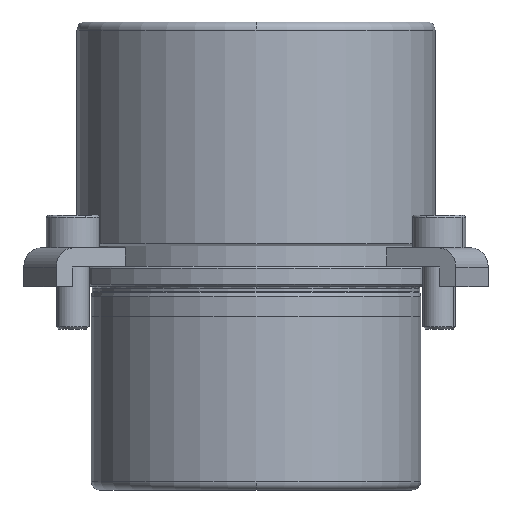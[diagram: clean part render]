
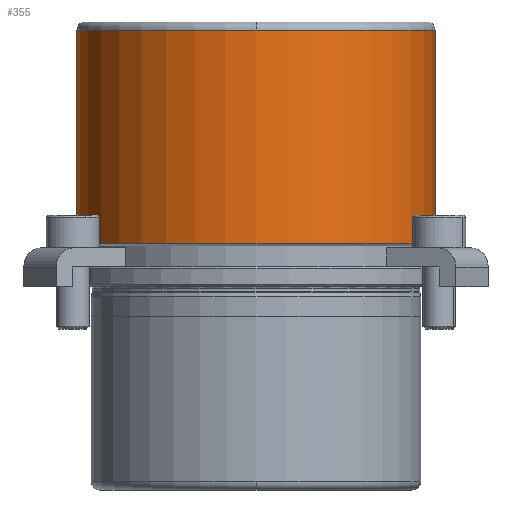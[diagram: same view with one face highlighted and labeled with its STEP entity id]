
A CAD part, front view. The second image highlights one B-rep face of the part: STEP entity #355.
In plain terms, the highlighted cylindrical face has radius 44 mm (diameter 88 mm), a partial arc.
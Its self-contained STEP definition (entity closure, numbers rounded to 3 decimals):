
#269=CARTESIAN_POINT('',(0.0,-44.,63.0));
#270=VERTEX_POINT('',#269);
#296=CARTESIAN_POINT('',(-44.0,0.,63.0));
#297=VERTEX_POINT('',#296);
#305=CARTESIAN_POINT('',(0.0,0.,63.0));
#306=DIRECTION('',(0.0,0.0,1.0));
#307=DIRECTION('',(1.0,0.0,0.0));
#308=AXIS2_PLACEMENT_3D('',#305,#306,#307);
#309=CIRCLE('',#308,44.0);
#310=EDGE_CURVE('',#297,#270,#309,.T.);
#315=CARTESIAN_POINT('',(0.0,0.,36.75));
#316=DIRECTION('',(0.0,0.,1.0));
#317=DIRECTION('',(1.0,0.0,0.0));
#318=AXIS2_PLACEMENT_3D('',#315,#316,#317);
#319=CYLINDRICAL_SURFACE('',#318,44.0);
#320=CARTESIAN_POINT('',(44.0,0.,63.0));
#321=VERTEX_POINT('',#320);
#322=CARTESIAN_POINT('',(44.0,0.,10.5));
#323=VERTEX_POINT('',#322);
#324=CARTESIAN_POINT('',(44.0,0.,63.0));
#325=DIRECTION('',(0.0,0.0,-1.0));
#326=VECTOR('',#325,52.5);
#327=LINE('',#324,#326);
#328=EDGE_CURVE('',#321,#323,#327,.T.);
#329=ORIENTED_EDGE('',*,*,#328,.F.);
#330=CARTESIAN_POINT('',(0.0,0.,63.0));
#331=DIRECTION('',(0.0,0.0,1.0));
#332=DIRECTION('',(1.0,0.0,0.0));
#333=AXIS2_PLACEMENT_3D('',#330,#331,#332);
#334=CIRCLE('',#333,44.0);
#335=EDGE_CURVE('',#270,#321,#334,.T.);
#336=ORIENTED_EDGE('',*,*,#335,.F.);
#337=ORIENTED_EDGE('',*,*,#310,.F.);
#338=CARTESIAN_POINT('',(-44.0,0.,10.5));
#339=VERTEX_POINT('',#338);
#340=CARTESIAN_POINT('',(-44.0,0.,63.0));
#341=DIRECTION('',(0.0,0.0,-1.0));
#342=VECTOR('',#341,52.5);
#343=LINE('',#340,#342);
#344=EDGE_CURVE('',#297,#339,#343,.T.);
#345=ORIENTED_EDGE('',*,*,#344,.T.);
#346=CARTESIAN_POINT('',(0.0,0.,10.5));
#347=DIRECTION('',(0.0,0.0,1.0));
#348=DIRECTION('',(1.0,0.0,0.0));
#349=AXIS2_PLACEMENT_3D('',#346,#347,#348);
#350=CIRCLE('',#349,44.0);
#351=EDGE_CURVE('',#339,#323,#350,.T.);
#352=ORIENTED_EDGE('',*,*,#351,.T.);
#353=EDGE_LOOP('',(#329,#336,#337,#345,#352));
#354=FACE_OUTER_BOUND('',#353,.T.);
#355=ADVANCED_FACE('',(#354),#319,.T.);
